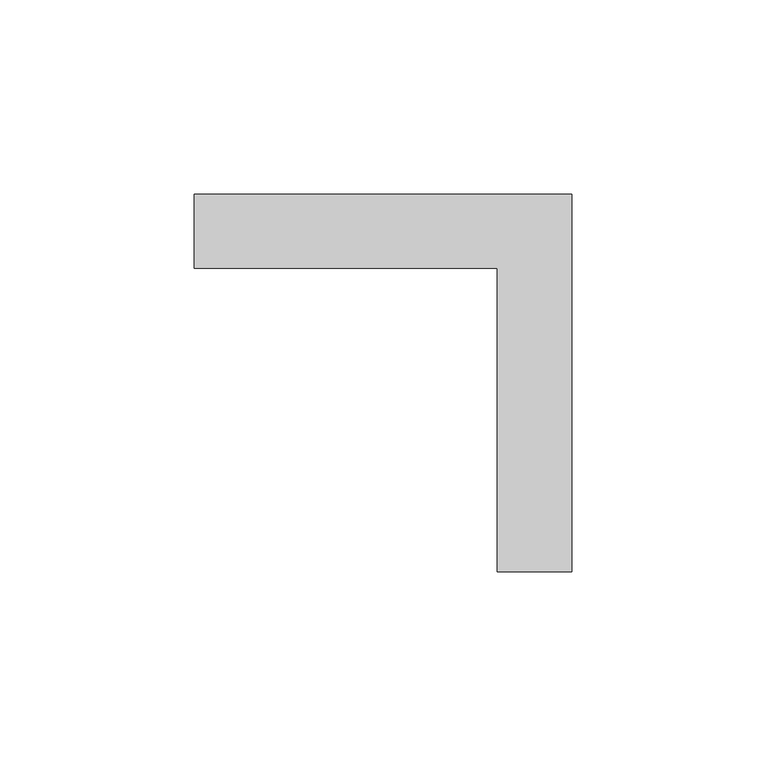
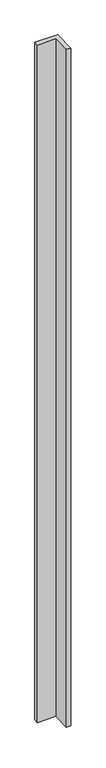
"""IFC4 building model written with IfcOpenShell, lengths in millimetres: proxy geometry, Connection-Corner-Teknion-Altos-Two_Way_FKCH90 : 90º Connection."""

from ifc_helpers import new_model, si_unit, origin, origin_with_axes, place, context, project, spatial, polyline, outline, extrude, source, transform, mapped, element, save


def specialty_equipment_a50fd7a3(model_context):
    return source(origin(), model_context, "Body", "SweptSolid", [
        extrude(outline(polyline([(-47.0296875, 50.00625), (49.9703128, 50.00625), (49.9703128, -46.9937503), (30.9203128, -46.9937503), (30.9203128, 30.95625), (-47.0296875, 30.95625), (-47.0296875, 50.00625)])), origin_with_axes(), (0.0, 0.0, 1.0), 3041.65),
    ])


if __name__ == "__main__":
    model = new_model("IFC4")
    model_context = context("Model", 3, world=origin())
    ifc_project = project(units=[si_unit("LENGTHUNIT", "METRE", prefix="MILLI")], contexts=[model_context])
    site = spatial("IfcSite", under=ifc_project)
    building = spatial("IfcBuilding", under=site)
    placement = place(None, origin())
    specialty_equipment_shape = specialty_equipment_a50fd7a3(model_context)
    element("IfcBuildingElementProxy", 1, Name="Connection-Corner-Teknion-Altos-Two_Way_FKCH90 : 90º Connection", ObjectType="Connection-Corner-Teknion-Altos-Two_Way_FKCH90 : 90º Connection", at=placement, inside=building, context=model_context, shape_type="MappedRepresentation", body=[
        mapped(specialty_equipment_shape, transform((0.0, 0.0, 0.0), x_axis=(1.0, 0.0, 0.0), y_axis=(0.0, 1.0, 0.0), z_axis=(0.0, 0.0, 1.0))),
    ])
    save(model, "model.ifc")
